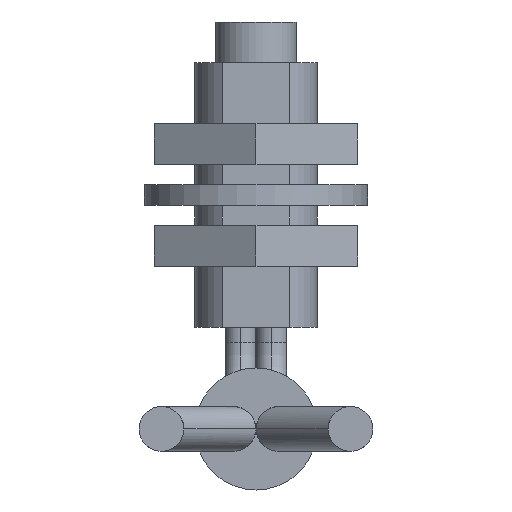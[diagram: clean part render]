
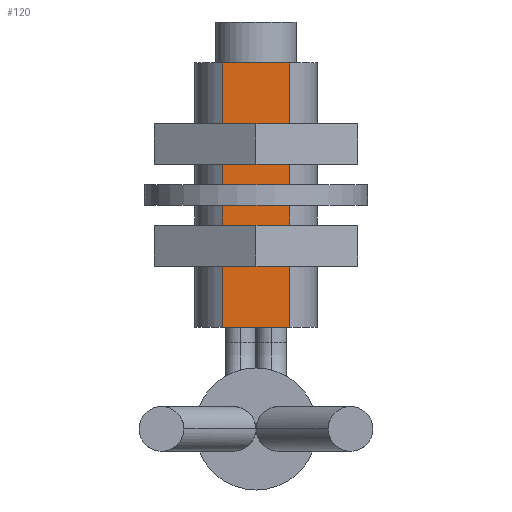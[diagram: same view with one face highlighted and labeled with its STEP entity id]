
A CAD part, front view. The second image highlights one B-rep face of the part: STEP entity #120.
In plain terms, the highlighted planar face has unit normal (0, -1, 0).
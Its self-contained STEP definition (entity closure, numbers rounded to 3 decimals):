
#120 = ADVANCED_FACE ( 'NONE', ( #823 ), #822, .T. ) ;
#121 = EDGE_LOOP ( 'NONE', ( #209, #210, #211, #212 ) ) ;
#134 = VERTEX_POINT ( 'NONE', #857 ) ;
#140 = VERTEX_POINT ( 'NONE', #851 ) ;
#142 = EDGE_CURVE ( 'NONE', #134, #140, #911, .T. ) ;
#170 = EDGE_CURVE ( 'NONE', #171, #201, #927, .T. ) ;
#171 = VERTEX_POINT ( 'NONE', #923 ) ;
#183 = EDGE_CURVE ( 'NONE', #171, #134, #970, .T. ) ;
#200 = EDGE_CURVE ( 'NONE', #140, #201, #944, .T. ) ;
#201 = VERTEX_POINT ( 'NONE', #1006 ) ;
#209 = ORIENTED_EDGE ( 'NONE', *, *, #200, .T. ) ;
#210 = ORIENTED_EDGE ( 'NONE', *, *, #170, .F. ) ;
#211 = ORIENTED_EDGE ( 'NONE', *, *, #183, .T. ) ;
#212 = ORIENTED_EDGE ( 'NONE', *, *, #142, .T. ) ;
#694 = CARTESIAN_POINT ( 'NONE',  ( 2., -2.5, 0. ) ) ;
#818 = DIRECTION ( 'NONE',  ( 0., 0., -1. ) ) ;
#819 = DIRECTION ( 'NONE',  ( 0., -1., 0. ) ) ;
#820 = CARTESIAN_POINT ( 'NONE',  ( 15., -2.5, -1.658 ) ) ;
#821 = AXIS2_PLACEMENT_3D ( 'NONE', #820, #819, #818 ) ;
#822 = PLANE ( 'NONE',  #821 ) ;
#823 = FACE_OUTER_BOUND ( 'NONE', #121, .T. ) ;
#851 = CARTESIAN_POINT ( 'NONE',  ( 2., -2.5, 1.658 ) ) ;
#857 = CARTESIAN_POINT ( 'NONE',  ( 15., -2.5, 1.658 ) ) ;
#908 = DIRECTION ( 'NONE',  ( -1., 0., 0. ) ) ;
#909 = VECTOR ( 'NONE', #908, 1000. ) ;
#910 = CARTESIAN_POINT ( 'NONE',  ( 15., -2.5, 1.658 ) ) ;
#911 = LINE ( 'NONE', #910, #909 ) ;
#923 = CARTESIAN_POINT ( 'NONE',  ( 15., -2.5, -1.658 ) ) ;
#924 = DIRECTION ( 'NONE',  ( -1., 0., 0. ) ) ;
#925 = VECTOR ( 'NONE', #924, 1000. ) ;
#926 = CARTESIAN_POINT ( 'NONE',  ( 15., -2.5, -1.658 ) ) ;
#927 = LINE ( 'NONE', #926, #925 ) ;
#944 = LINE ( 'NONE', #694, #1008 ) ;
#967 = DIRECTION ( 'NONE',  ( 0., 0., 1. ) ) ;
#968 = VECTOR ( 'NONE', #967, 1000. ) ;
#969 = CARTESIAN_POINT ( 'NONE',  ( 15., -2.5, -1.658 ) ) ;
#970 = LINE ( 'NONE', #969, #968 ) ;
#1006 = CARTESIAN_POINT ( 'NONE',  ( 2., -2.5, -1.658 ) ) ;
#1007 = DIRECTION ( 'NONE',  ( 0., 0., -1. ) ) ;
#1008 = VECTOR ( 'NONE', #1007, 1000. ) ;
